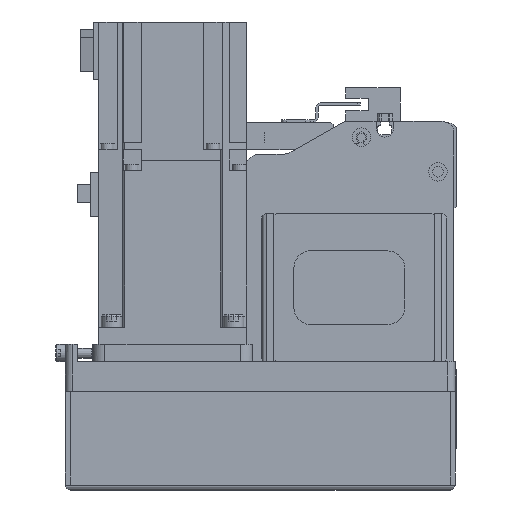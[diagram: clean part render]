
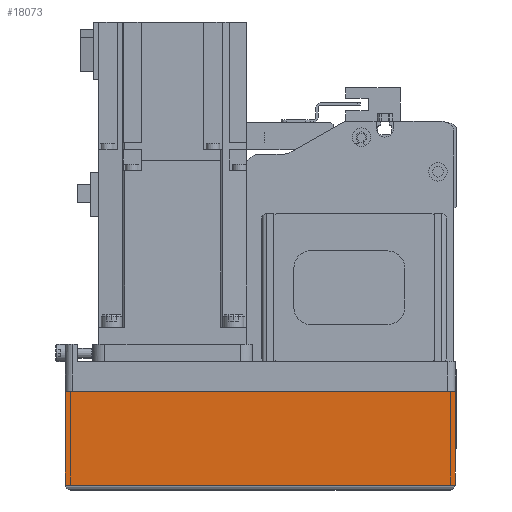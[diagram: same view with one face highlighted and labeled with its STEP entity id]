
A CAD part, left-side view. The second image highlights one B-rep face of the part: STEP entity #18073.
In plain terms, the highlighted planar face has unit normal (-1, 0, 0) as drawn and (0, -1, 0) by its records, which use the part's own axes.
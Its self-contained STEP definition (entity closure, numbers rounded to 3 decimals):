
#2814=ORIENTED_EDGE('',*,*,#7249,.F.);
#2815=ORIENTED_EDGE('',*,*,#7231,.F.);
#2816=ORIENTED_EDGE('',*,*,#7266,.T.);
#2817=ORIENTED_EDGE('',*,*,#7321,.T.);
#7231=EDGE_CURVE('',#9639,#9640,#11485,.T.);
#7249=EDGE_CURVE('',#9640,#9656,#11503,.T.);
#7266=EDGE_CURVE('',#9639,#9666,#11516,.T.);
#7321=EDGE_CURVE('',#9666,#9656,#11544,.T.);
#9639=VERTEX_POINT('',#27706);
#9640=VERTEX_POINT('',#27707);
#9656=VERTEX_POINT('',#27744);
#9666=VERTEX_POINT('',#27774);
#11485=LINE('',#27705,#13135);
#11503=LINE('',#27743,#13153);
#11516=LINE('',#27775,#13166);
#11544=LINE('',#27873,#13194);
#13135=VECTOR('',#22175,1000.);
#13153=VECTOR('',#22199,1000.);
#13166=VECTOR('',#22228,1000.);
#13194=VECTOR('',#22356,1000.);
#14673=EDGE_LOOP('',(#2814,#2815,#2816,#2817));
#16083=FACE_BOUND('',#14673,.T.);
#17320=PLANE('',#19390);
#18073=ADVANCED_FACE('',(#16083),#17320,.T.);
#19390=AXIS2_PLACEMENT_3D('',#27874,#22357,#22358);
#22175=DIRECTION('',(1.,0.,0.));
#22199=DIRECTION('',(0.,0.,-1.));
#22228=DIRECTION('',(0.,0.,-1.));
#22356=DIRECTION('',(1.,0.,0.));
#22357=DIRECTION('',(0.,-1.,0.));
#22358=DIRECTION('',(0.,0.,-1.));
#27705=CARTESIAN_POINT('',(-158.,-39.,-12.1));
#27706=CARTESIAN_POINT('',(-158.,-39.,-12.1));
#27707=CARTESIAN_POINT('',(0.,-39.,-12.1));
#27743=CARTESIAN_POINT('',(0.,-39.,-12.1));
#27744=CARTESIAN_POINT('',(0.,-39.,-50.));
#27774=CARTESIAN_POINT('',(-158.,-39.,-50.));
#27775=CARTESIAN_POINT('',(-158.,-39.,-12.1));
#27873=CARTESIAN_POINT('',(-158.,-39.,-50.));
#27874=CARTESIAN_POINT('',(-158.,-39.,-12.1));
